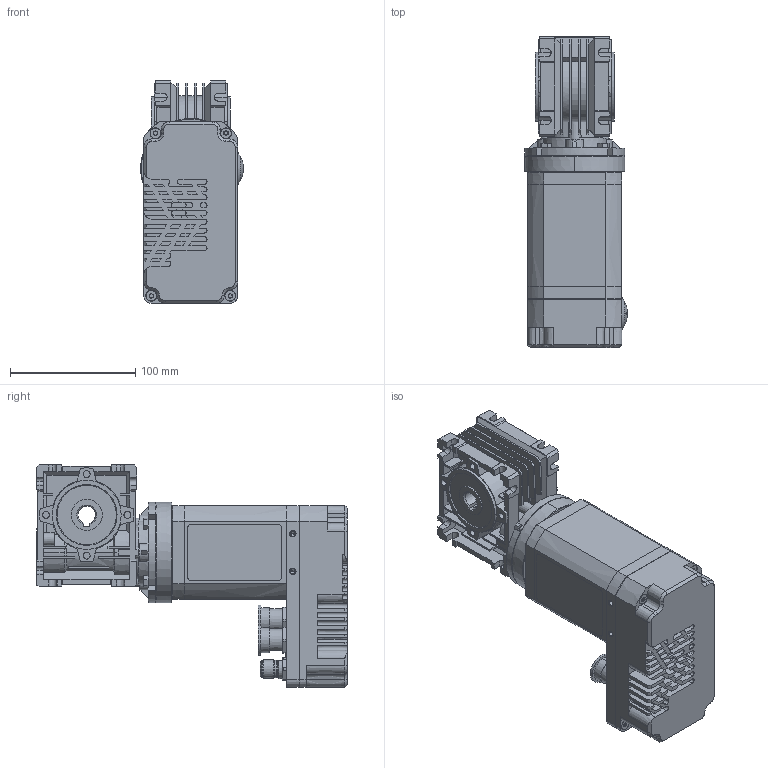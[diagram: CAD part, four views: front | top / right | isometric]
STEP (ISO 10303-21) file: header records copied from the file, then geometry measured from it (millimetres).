
FILE_DESCRIPTION((''),'2;1');
FILE_NAME('PRT0001','2018-07-10T',('alecma1'),('CROUZET-AUTOMATISMES'),'CREO PARAMETRIC BY PTC INC, 2017170','CREO PARAMETRIC BY PTC INC, 2017170','');
FILE_SCHEMA(('AP203_CONFIGURATION_CONTROLLED_3D_DESIGN_OF_MECHANICAL_PARTS_AND_ASSEMBLIES_MIM_LF { 1 0 10303 403 2 1 2 }'));
Products named in the file (1): PRT0001
Bounding box: 82 x 248.1 x 177.5 mm (x, y, z)
Surface area: 203933.3 mm2 (no closed solid volume)
Topology: 0 solids, 0 shells, 1313 faces, 7211 edges, 7194 vertices
Faces by surface type: bspline 1307, sphere 4, torus 2
Entity records: 150178 total; most frequent: CARTESIAN_POINT 62400, DIRECTION 10792, TRIMMED_CURVE 9668, VECTOR 8577, LINE 8577, DEFINITIONAL_REPRESENTATION 7185, PCURVE 7185, COMPOSITE_CURVE_SEGMENT 7185
